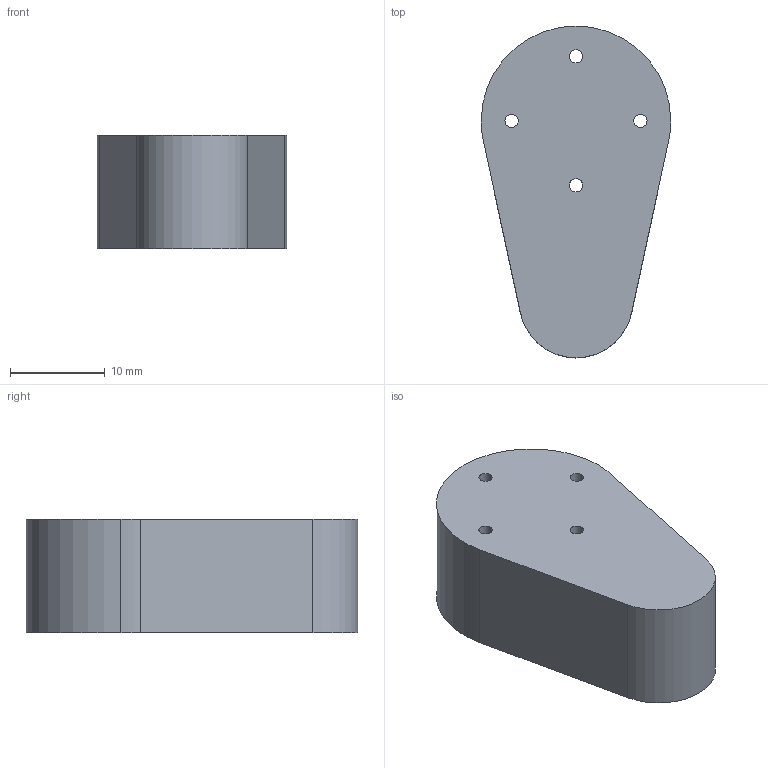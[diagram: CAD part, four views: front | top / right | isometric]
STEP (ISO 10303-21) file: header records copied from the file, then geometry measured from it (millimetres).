
FILE_DESCRIPTION (( 'STEP AP214' ), '1' );
FILE_NAME ('CAM.STEP', '2024-10-17T16:36:19', ( '' ), ( '' ), 'SwSTEP 2.0', 'SolidWorks 2020', '' );
FILE_SCHEMA (( 'AUTOMOTIVE_DESIGN' ));
Length unit declared in the file: millimetre
Products named in the file (1): CAM
Bounding box: 20 x 35 x 12 mm (x, y, z)
Volume: 6218.8 mm3; surface area: 2316.9 mm2
Topology: 1 solids, 1 shells, 16 faces, 42 edges, 28 vertices
Faces by surface type: cylinder 12, plane 4
Entity records: 560 total; most frequent: DIRECTION 100, CARTESIAN_POINT 87, ORIENTED_EDGE 84, EDGE_CURVE 42, AXIS2_PLACEMENT_3D 41, VERTEX_POINT 28, EDGE_LOOP 24, CIRCLE 24
